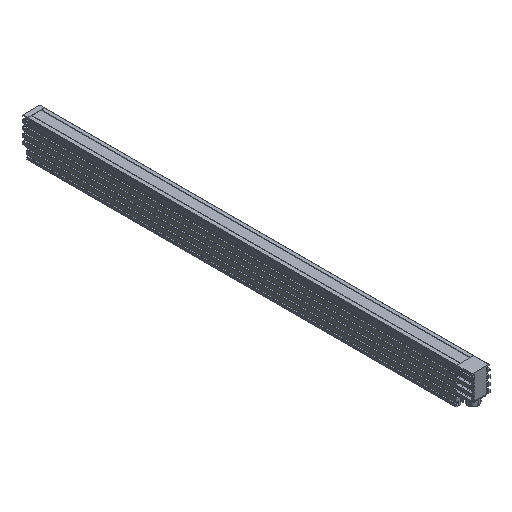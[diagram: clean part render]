
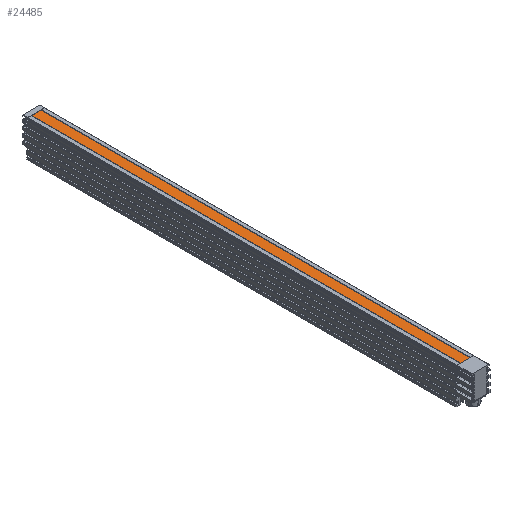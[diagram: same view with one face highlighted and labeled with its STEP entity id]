
A CAD part, isometric view. The second image highlights one B-rep face of the part: STEP entity #24485.
In plain terms, the highlighted planar face has unit normal (0, 0, 1).
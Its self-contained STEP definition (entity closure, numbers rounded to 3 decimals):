
#97 = DIRECTION ( 'NONE',  ( 1., 0., 0. ) ) ;
#524 = CARTESIAN_POINT ( 'NONE',  ( 10., 0., 39. ) ) ;
#1963 = EDGE_CURVE ( 'NONE', #4390, #15682, #10079, .T. ) ;
#2776 = VERTEX_POINT ( 'NONE', #10404 ) ;
#3310 = DIRECTION ( 'NONE',  ( 0., -1., 0. ) ) ;
#4261 = ORIENTED_EDGE ( 'NONE', *, *, #1963, .T. ) ;
#4390 = VERTEX_POINT ( 'NONE', #11286 ) ;
#4661 = AXIS2_PLACEMENT_3D ( 'NONE', #22581, #18065, #13983 ) ;
#5625 = PLANE ( 'NONE',  #4661 ) ;
#5632 = CARTESIAN_POINT ( 'NONE',  ( 10., 900., 39. ) ) ;
#6661 = LINE ( 'NONE', #14639, #16041 ) ;
#7126 = LINE ( 'NONE', #5632, #26353 ) ;
#7341 = CARTESIAN_POINT ( 'NONE',  ( 0., 900., 39. ) ) ;
#7746 = VECTOR ( 'NONE', #26474, 1000. ) ;
#8188 = VECTOR ( 'NONE', #97, 1000. ) ;
#10079 = LINE ( 'NONE', #10212, #8188 ) ;
#10212 = CARTESIAN_POINT ( 'NONE',  ( 0., 0., 39. ) ) ;
#10404 = CARTESIAN_POINT ( 'NONE',  ( 10., 900., 39. ) ) ;
#10610 = EDGE_CURVE ( 'NONE', #2776, #15682, #7126, .T. ) ;
#11286 = CARTESIAN_POINT ( 'NONE',  ( -10., 0., 39. ) ) ;
#13983 = DIRECTION ( 'NONE',  ( -1., 0., 0. ) ) ;
#14639 = CARTESIAN_POINT ( 'NONE',  ( -10., 900., 39. ) ) ;
#15682 = VERTEX_POINT ( 'NONE', #524 ) ;
#16041 = VECTOR ( 'NONE', #16671, 1000. ) ;
#16468 = ORIENTED_EDGE ( 'NONE', *, *, #24758, .F. ) ;
#16671 = DIRECTION ( 'NONE',  ( 0., -1., 0. ) ) ;
#18065 = DIRECTION ( 'NONE',  ( 0., 0., -1. ) ) ;
#18079 = EDGE_CURVE ( 'NONE', #25828, #4390, #6661, .T. ) ;
#18479 = ORIENTED_EDGE ( 'NONE', *, *, #18079, .T. ) ;
#19778 = LINE ( 'NONE', #7341, #7746 ) ;
#21456 = CARTESIAN_POINT ( 'NONE',  ( -10., 900., 39. ) ) ;
#22581 = CARTESIAN_POINT ( 'NONE',  ( 0., 900., 39. ) ) ;
#22711 = FACE_OUTER_BOUND ( 'NONE', #23684, .T. ) ;
#23684 = EDGE_LOOP ( 'NONE', ( #23993, #16468, #18479, #4261 ) ) ;
#23993 = ORIENTED_EDGE ( 'NONE', *, *, #10610, .F. ) ;
#24485 = ADVANCED_FACE ( 'NONE', ( #22711 ), #5625, .F. ) ;
#24758 = EDGE_CURVE ( 'NONE', #25828, #2776, #19778, .T. ) ;
#25828 = VERTEX_POINT ( 'NONE', #21456 ) ;
#26353 = VECTOR ( 'NONE', #3310, 1000. ) ;
#26474 = DIRECTION ( 'NONE',  ( 1., 0., 0. ) ) ;
